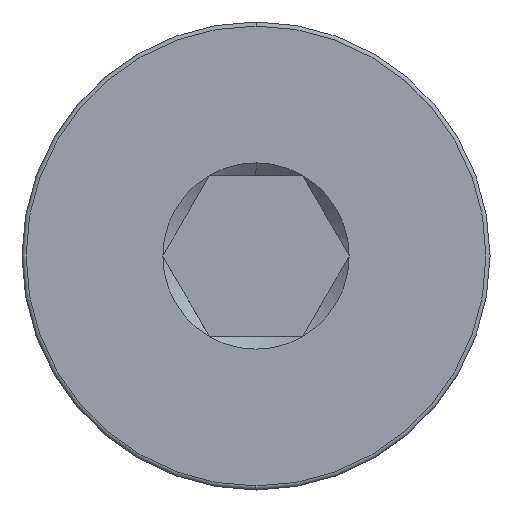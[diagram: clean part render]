
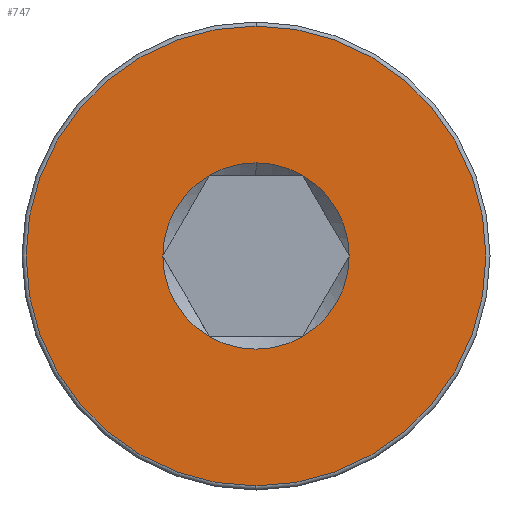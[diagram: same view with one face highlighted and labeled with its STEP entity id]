
A CAD part, left-side view. The second image highlights one B-rep face of the part: STEP entity #747.
In plain terms, the highlighted planar face has unit normal (-1, 0, 0).
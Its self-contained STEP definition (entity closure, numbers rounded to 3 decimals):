
#2 = DIRECTION ( 'NONE',  ( 0., 0., -1. ) ) ;
#5 = VERTEX_POINT ( 'NONE', #234 ) ;
#6 = DIRECTION ( 'NONE',  ( -1., 0., 0. ) ) ;
#14 = DIRECTION ( 'NONE',  ( 0., 0., 1. ) ) ;
#21 = CIRCLE ( 'NONE', #758, 1.155 ) ;
#28 = ORIENTED_EDGE ( 'NONE', *, *, #663, .T. ) ;
#29 = VERTEX_POINT ( 'NONE', #161 ) ;
#53 = CARTESIAN_POINT ( 'NONE',  ( 0., 0., 0. ) ) ;
#56 = VERTEX_POINT ( 'NONE', #105 ) ;
#63 = CARTESIAN_POINT ( 'NONE',  ( 0., 0., 0. ) ) ;
#66 = DIRECTION ( 'NONE',  ( -1., 0., 0. ) ) ;
#75 = DIRECTION ( 'NONE',  ( 0., 0., -1. ) ) ;
#76 = CARTESIAN_POINT ( 'NONE',  ( 0., 0.577, -1. ) ) ;
#85 = ORIENTED_EDGE ( 'NONE', *, *, #755, .T. ) ;
#105 = CARTESIAN_POINT ( 'NONE',  ( 0., 0., 1.155 ) ) ;
#111 = DIRECTION ( 'NONE',  ( 0., 0., -1. ) ) ;
#114 = CARTESIAN_POINT ( 'NONE',  ( 0., 0., 0. ) ) ;
#120 = VERTEX_POINT ( 'NONE', #276 ) ;
#126 = DIRECTION ( 'NONE',  ( 1., 0., 0. ) ) ;
#130 = CARTESIAN_POINT ( 'NONE',  ( 0., 0., 0. ) ) ;
#161 = CARTESIAN_POINT ( 'NONE',  ( 0., -1.155, 0. ) ) ;
#162 = CIRCLE ( 'NONE', #174, 1.155 ) ;
#174 = AXIS2_PLACEMENT_3D ( 'NONE', #407, #656, #354 ) ;
#184 = EDGE_CURVE ( 'NONE', #29, #345, #21, .T. ) ;
#193 = DIRECTION ( 'NONE',  ( 1., 0., 0. ) ) ;
#201 = EDGE_CURVE ( 'NONE', #322, #120, #356, .T. ) ;
#234 = CARTESIAN_POINT ( 'NONE',  ( 0., -0.577, 1. ) ) ;
#235 = DIRECTION ( 'NONE',  ( 0., 0., -1. ) ) ;
#241 = EDGE_CURVE ( 'NONE', #455, #322, #323, .T. ) ;
#251 = EDGE_CURVE ( 'NONE', #345, #455, #631, .T. ) ;
#255 = CARTESIAN_POINT ( 'NONE',  ( 0., 0., 0. ) ) ;
#276 = CARTESIAN_POINT ( 'NONE',  ( 0., 0.577, 1. ) ) ;
#280 = EDGE_LOOP ( 'NONE', ( #515, #85, #372, #28, #344, #752, #767 ) ) ;
#290 = AXIS2_PLACEMENT_3D ( 'NONE', #566, #66, #14 ) ;
#299 = CARTESIAN_POINT ( 'NONE',  ( 0., 0., -2.85 ) ) ;
#301 = DIRECTION ( 'NONE',  ( 1., 0., 0. ) ) ;
#311 = AXIS2_PLACEMENT_3D ( 'NONE', #666, #776, #359 ) ;
#322 = VERTEX_POINT ( 'NONE', #608 ) ;
#323 = CIRCLE ( 'NONE', #722, 1.155 ) ;
#331 = EDGE_CURVE ( 'NONE', #691, #620, #514, .T. ) ;
#344 = ORIENTED_EDGE ( 'NONE', *, *, #184, .T. ) ;
#345 = VERTEX_POINT ( 'NONE', #616 ) ;
#354 = DIRECTION ( 'NONE',  ( 0., 0., -1. ) ) ;
#356 = CIRCLE ( 'NONE', #782, 1.155 ) ;
#359 = DIRECTION ( 'NONE',  ( 0., 0., -1. ) ) ;
#360 = EDGE_LOOP ( 'NONE', ( #396, #737 ) ) ;
#365 = FACE_BOUND ( 'NONE', #280, .T. ) ;
#367 = DIRECTION ( 'NONE',  ( 0., 0., 1. ) ) ;
#368 = EDGE_CURVE ( 'NONE', #56, #5, #659, .T. ) ;
#372 = ORIENTED_EDGE ( 'NONE', *, *, #368, .T. ) ;
#376 = EDGE_CURVE ( 'NONE', #620, #691, #412, .T. ) ;
#377 = AXIS2_PLACEMENT_3D ( 'NONE', #255, #382, #564 ) ;
#382 = DIRECTION ( 'NONE',  ( -1., 0., 0. ) ) ;
#396 = ORIENTED_EDGE ( 'NONE', *, *, #376, .T. ) ;
#407 = CARTESIAN_POINT ( 'NONE',  ( 0., 0., 0. ) ) ;
#408 = DIRECTION ( 'NONE',  ( 1., 0., 0. ) ) ;
#412 = CIRCLE ( 'NONE', #290, 2.85 ) ;
#419 = DIRECTION ( 'NONE',  ( 0., 0., -1. ) ) ;
#437 = PLANE ( 'NONE',  #377 ) ;
#455 = VERTEX_POINT ( 'NONE', #76 ) ;
#478 = FACE_OUTER_BOUND ( 'NONE', #360, .T. ) ;
#514 = CIRCLE ( 'NONE', #648, 2.85 ) ;
#515 = ORIENTED_EDGE ( 'NONE', *, *, #201, .T. ) ;
#533 = CARTESIAN_POINT ( 'NONE',  ( 0., 0., 0. ) ) ;
#564 = DIRECTION ( 'NONE',  ( 0., 0., 1. ) ) ;
#566 = CARTESIAN_POINT ( 'NONE',  ( 0., 0., 0. ) ) ;
#585 = CIRCLE ( 'NONE', #781, 1.155 ) ;
#603 = DIRECTION ( 'NONE',  ( 1., 0., 0. ) ) ;
#608 = CARTESIAN_POINT ( 'NONE',  ( 0., 1.155, 0. ) ) ;
#616 = CARTESIAN_POINT ( 'NONE',  ( 0., -0.577, -1. ) ) ;
#620 = VERTEX_POINT ( 'NONE', #712 ) ;
#631 = CIRCLE ( 'NONE', #311, 1.155 ) ;
#648 = AXIS2_PLACEMENT_3D ( 'NONE', #63, #6, #367 ) ;
#656 = DIRECTION ( 'NONE',  ( 1., 0., 0. ) ) ;
#659 = CIRCLE ( 'NONE', #671, 1.155 ) ;
#663 = EDGE_CURVE ( 'NONE', #5, #29, #162, .T. ) ;
#666 = CARTESIAN_POINT ( 'NONE',  ( 0., 0., 0. ) ) ;
#671 = AXIS2_PLACEMENT_3D ( 'NONE', #738, #126, #419 ) ;
#691 = VERTEX_POINT ( 'NONE', #299 ) ;
#712 = CARTESIAN_POINT ( 'NONE',  ( 0., 0., 2.85 ) ) ;
#722 = AXIS2_PLACEMENT_3D ( 'NONE', #114, #301, #111 ) ;
#737 = ORIENTED_EDGE ( 'NONE', *, *, #331, .T. ) ;
#738 = CARTESIAN_POINT ( 'NONE',  ( 0., 0., 0. ) ) ;
#747 = ADVANCED_FACE ( 'NONE', ( #478, #365 ), #437, .T. ) ;
#752 = ORIENTED_EDGE ( 'NONE', *, *, #251, .T. ) ;
#755 = EDGE_CURVE ( 'NONE', #120, #56, #585, .T. ) ;
#758 = AXIS2_PLACEMENT_3D ( 'NONE', #53, #408, #2 ) ;
#767 = ORIENTED_EDGE ( 'NONE', *, *, #241, .T. ) ;
#776 = DIRECTION ( 'NONE',  ( 1., 0., 0. ) ) ;
#781 = AXIS2_PLACEMENT_3D ( 'NONE', #130, #193, #75 ) ;
#782 = AXIS2_PLACEMENT_3D ( 'NONE', #533, #603, #235 ) ;
